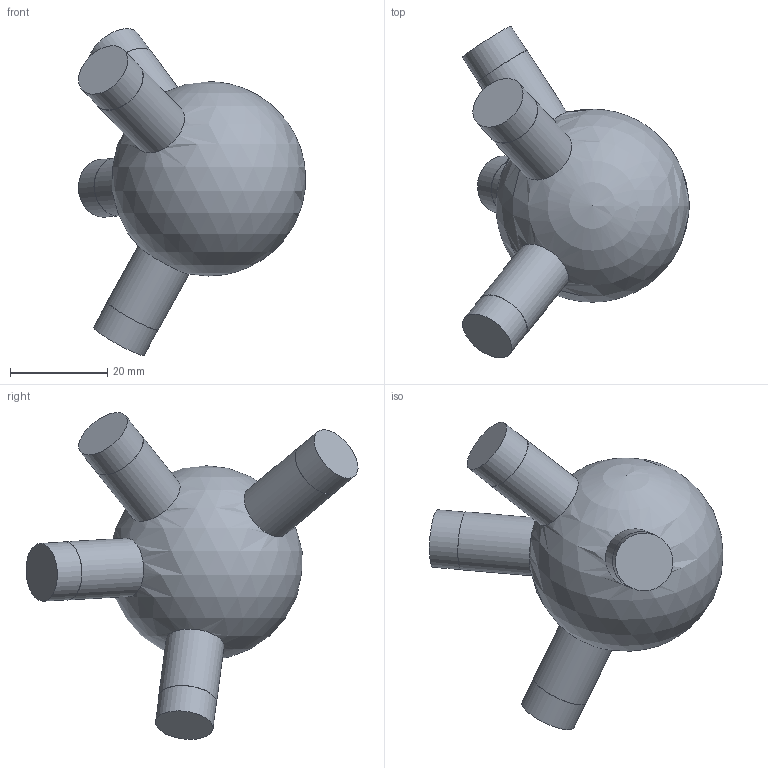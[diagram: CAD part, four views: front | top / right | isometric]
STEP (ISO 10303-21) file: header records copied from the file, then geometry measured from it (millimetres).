
FILE_DESCRIPTION(('Open CASCADE Model'),'2;1');
FILE_NAME('Open CASCADE Shape Model','2026-10-21T12:47:57',('Author'),( 'Open CASCADE'),'Open CASCADE STEP processor 7.9','Open CASCADE 7.9' ,'Unknown');
FILE_SCHEMA(('AUTOMOTIVE_DESIGN { 1 0 10303 214 1 1 1 1 }'));
Length unit declared in the file: millimetre
Products named in the file (1): Open CASCADE STEP translator 7.9 103
Bounding box: 46.75 x 68.32 x 67.27 mm (x, y, z)
Volume: 42591.9 mm3; surface area: 8120.6 mm2
Topology: 1 solids, 1 shells, 17 faces, 27 edges, 18 vertices
Faces by surface type: cylinder 8, plane 8, sphere 1
Full cylindrical faces by diameter (mm): 11.9 x4, 12 x4
Entity records: 990 total; most frequent: CARTESIAN_POINT 405, DIRECTION 120, ORIENTED_EDGE 48, PCURVE 48, DEFINITIONAL_REPRESENTATION 48, LINE 40, VECTOR 40, AXIS2_PLACEMENT_3D 34
